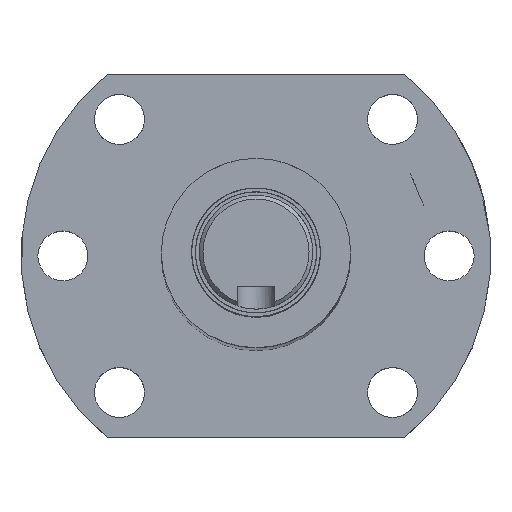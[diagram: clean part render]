
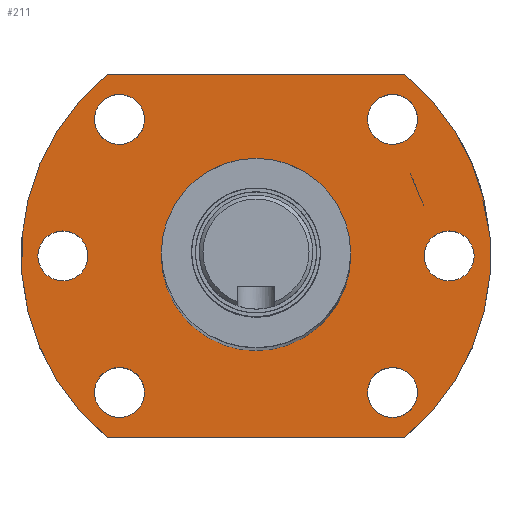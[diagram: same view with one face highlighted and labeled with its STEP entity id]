
A CAD part, top view. The second image highlights one B-rep face of the part: STEP entity #211.
In plain terms, the highlighted planar face has unit normal (0, 0, 1).
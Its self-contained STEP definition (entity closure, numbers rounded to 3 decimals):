
#125=FACE_BOUND('',#319,.T.);
#126=FACE_BOUND('',#320,.T.);
#127=FACE_BOUND('',#321,.T.);
#128=FACE_BOUND('',#322,.T.);
#129=FACE_BOUND('',#323,.T.);
#130=FACE_BOUND('',#324,.T.);
#131=FACE_BOUND('',#325,.T.);
#132=FACE_BOUND('',#326,.T.);
#211=ADVANCED_FACE('',(#125,#126,#127,#128,#129,#130,#131,#132),#246,.T.);
#246=PLANE('',#845);
#319=EDGE_LOOP('',(#517,#518,#519,#520));
#320=EDGE_LOOP('',(#521));
#321=EDGE_LOOP('',(#522));
#322=EDGE_LOOP('',(#523));
#323=EDGE_LOOP('',(#524));
#324=EDGE_LOOP('',(#525));
#325=EDGE_LOOP('',(#526));
#326=EDGE_LOOP('',(#527));
#385=CIRCLE('',#835,31.);
#386=CIRCLE('',#837,31.);
#387=CIRCLE('',#838,3.3);
#388=CIRCLE('',#839,3.3);
#389=CIRCLE('',#840,3.3);
#390=CIRCLE('',#841,12.5);
#391=CIRCLE('',#842,3.3);
#392=CIRCLE('',#843,3.3);
#393=CIRCLE('',#844,3.3);
#517=ORIENTED_EDGE('',*,*,#701,.F.);
#518=ORIENTED_EDGE('',*,*,#699,.F.);
#519=ORIENTED_EDGE('',*,*,#702,.T.);
#520=ORIENTED_EDGE('',*,*,#703,.F.);
#521=ORIENTED_EDGE('',*,*,#704,.T.);
#522=ORIENTED_EDGE('',*,*,#705,.T.);
#523=ORIENTED_EDGE('',*,*,#706,.T.);
#524=ORIENTED_EDGE('',*,*,#707,.T.);
#525=ORIENTED_EDGE('',*,*,#708,.T.);
#526=ORIENTED_EDGE('',*,*,#709,.T.);
#527=ORIENTED_EDGE('',*,*,#710,.T.);
#615=VERTEX_POINT('',#4493);
#618=VERTEX_POINT('',#4498);
#620=VERTEX_POINT('',#4561);
#621=VERTEX_POINT('',#4563);
#622=VERTEX_POINT('',#4566);
#623=VERTEX_POINT('',#4568);
#624=VERTEX_POINT('',#4570);
#625=VERTEX_POINT('',#4572);
#626=VERTEX_POINT('',#4574);
#627=VERTEX_POINT('',#4576);
#628=VERTEX_POINT('',#4578);
#699=EDGE_CURVE('',#618,#615,#385,.T.);
#701=EDGE_CURVE('',#615,#620,#750,.T.);
#702=EDGE_CURVE('',#618,#621,#751,.T.);
#703=EDGE_CURVE('',#620,#621,#386,.T.);
#704=EDGE_CURVE('',#622,#622,#387,.T.);
#705=EDGE_CURVE('',#623,#623,#388,.T.);
#706=EDGE_CURVE('',#624,#624,#389,.T.);
#707=EDGE_CURVE('',#625,#625,#390,.T.);
#708=EDGE_CURVE('',#626,#626,#391,.T.);
#709=EDGE_CURVE('',#627,#627,#392,.T.);
#710=EDGE_CURVE('',#628,#628,#393,.T.);
#750=LINE('',#4560,#778);
#751=LINE('',#4562,#779);
#778=VECTOR('',#1004,1.);
#779=VECTOR('',#1005,1.);
#835=AXIS2_PLACEMENT_3D('',#4499,#1000,#1001);
#837=AXIS2_PLACEMENT_3D('',#4564,#1006,#1007);
#838=AXIS2_PLACEMENT_3D('',#4565,#1008,#1009);
#839=AXIS2_PLACEMENT_3D('',#4567,#1010,#1011);
#840=AXIS2_PLACEMENT_3D('',#4569,#1012,#1013);
#841=AXIS2_PLACEMENT_3D('',#4571,#1014,#1015);
#842=AXIS2_PLACEMENT_3D('',#4573,#1016,#1017);
#843=AXIS2_PLACEMENT_3D('',#4575,#1018,#1019);
#844=AXIS2_PLACEMENT_3D('',#4577,#1020,#1021);
#845=AXIS2_PLACEMENT_3D('',#4579,#1022,#1023);
#1000=DIRECTION('',(0.,0.,-1.));
#1001=DIRECTION('',(1.,0.,0.));
#1004=DIRECTION('',(-1.,0.,0.));
#1005=DIRECTION('',(-1.,0.,0.));
#1006=DIRECTION('',(0.,0.,-1.));
#1007=DIRECTION('',(1.,0.,0.));
#1008=DIRECTION('',(0.,0.,-1.));
#1009=DIRECTION('',(0.707,0.707,0.));
#1010=DIRECTION('',(0.,0.,-1.));
#1011=DIRECTION('',(-1.,0.,0.));
#1012=DIRECTION('',(0.,0.,-1.));
#1013=DIRECTION('',(0.707,-0.707,0.));
#1014=DIRECTION('',(0.,0.,-1.));
#1015=DIRECTION('',(1.,0.,0.));
#1016=DIRECTION('',(0.,0.,-1.));
#1017=DIRECTION('',(1.,0.,0.));
#1018=DIRECTION('',(0.,0.,-1.));
#1019=DIRECTION('',(-0.707,0.707,0.));
#1020=DIRECTION('',(0.,0.,-1.));
#1021=DIRECTION('',(-0.707,-0.707,0.));
#1022=DIRECTION('',(0.,0.,1.));
#1023=DIRECTION('',(-1.,0.,0.));
#4493=CARTESIAN_POINT('',(19.621,-24.,0.));
#4498=CARTESIAN_POINT('',(19.621,24.,0.));
#4499=CARTESIAN_POINT('',(0.,0.,0.));
#4560=CARTESIAN_POINT('',(0.,-24.,0.));
#4561=CARTESIAN_POINT('',(-19.621,-24.,0.));
#4562=CARTESIAN_POINT('',(0.,24.,0.));
#4563=CARTESIAN_POINT('',(-19.621,24.,0.));
#4564=CARTESIAN_POINT('',(0.,0.,0.));
#4565=CARTESIAN_POINT('',(-18.031,-18.031,0.));
#4566=CARTESIAN_POINT('',(-15.698,-15.698,0.));
#4567=CARTESIAN_POINT('',(25.5,0.,0.));
#4568=CARTESIAN_POINT('',(22.2,0.,0.));
#4569=CARTESIAN_POINT('',(-18.031,18.031,0.));
#4570=CARTESIAN_POINT('',(-15.698,15.698,0.));
#4571=CARTESIAN_POINT('',(0.,0.,0.));
#4572=CARTESIAN_POINT('',(12.5,0.,0.));
#4573=CARTESIAN_POINT('',(-25.5,0.,0.));
#4574=CARTESIAN_POINT('',(-22.2,0.,0.));
#4575=CARTESIAN_POINT('',(18.031,-18.031,0.));
#4576=CARTESIAN_POINT('',(15.698,-15.698,0.));
#4577=CARTESIAN_POINT('',(18.031,18.031,0.));
#4578=CARTESIAN_POINT('',(15.698,15.698,0.));
#4579=CARTESIAN_POINT('',(0.,0.,0.));
